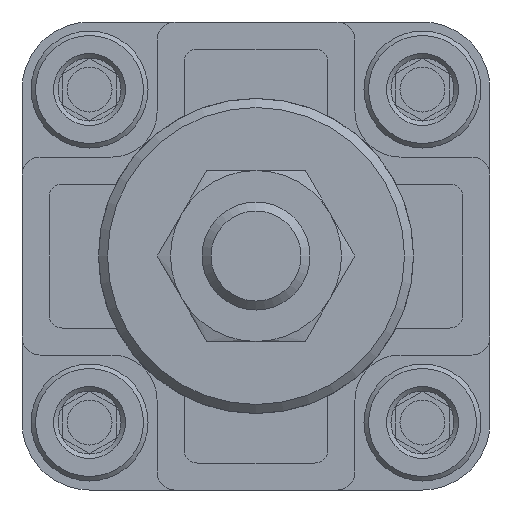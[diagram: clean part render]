
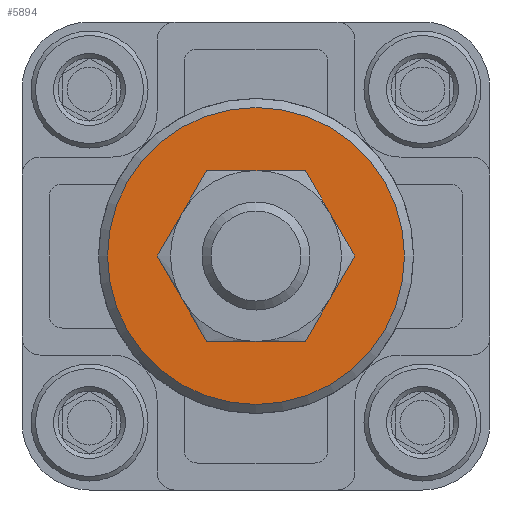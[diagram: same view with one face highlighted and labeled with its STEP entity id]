
A CAD part, front view. The second image highlights one B-rep face of the part: STEP entity #5894.
In plain terms, the highlighted planar face has unit normal (0, -1, 0).
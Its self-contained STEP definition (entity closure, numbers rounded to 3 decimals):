
#927=ORIENTED_EDGE('',*,*,#2143,.T.);
#928=ORIENTED_EDGE('',*,*,#2141,.T.);
#2141=EDGE_CURVE('',#2750,#2750,#3179,.T.);
#2143=EDGE_CURVE('',#2752,#2752,#3181,.F.);
#2750=VERTEX_POINT('',#8095);
#2752=VERTEX_POINT('',#8101);
#3179=CIRCLE('',#6198,9.);
#3181=CIRCLE('',#6202,16.5);
#3414=EDGE_LOOP('',(#927));
#3415=EDGE_LOOP('',(#928));
#3796=FACE_BOUND('',#3414,.T.);
#3797=FACE_BOUND('',#3415,.T.);
#4172=PLANE('',#6201);
#5894=ADVANCED_FACE('',(#3796,#3797),#4172,.F.);
#6198=AXIS2_PLACEMENT_3D('',#8094,#6720,#6721);
#6201=AXIS2_PLACEMENT_3D('',#8099,#6726,#6727);
#6202=AXIS2_PLACEMENT_3D('',#8100,#6728,#6729);
#6720=DIRECTION('',(0.,1.,0.));
#6721=DIRECTION('',(0.,0.,1.));
#6726=DIRECTION('',(0.,1.,0.));
#6727=DIRECTION('',(0.,0.,1.));
#6728=DIRECTION('',(0.,1.,0.));
#6729=DIRECTION('',(0.,0.,1.));
#8094=CARTESIAN_POINT('',(0.,-46.,0.));
#8095=CARTESIAN_POINT('',(0.,-46.,9.));
#8099=CARTESIAN_POINT('',(0.,-46.,0.));
#8100=CARTESIAN_POINT('',(0.,-46.,0.));
#8101=CARTESIAN_POINT('',(0.,-46.,16.5));
